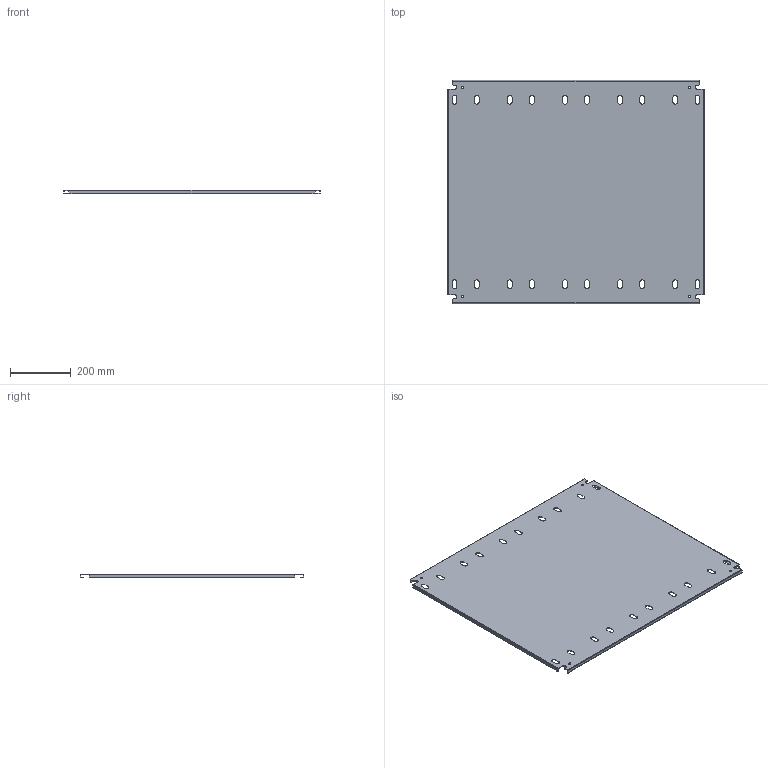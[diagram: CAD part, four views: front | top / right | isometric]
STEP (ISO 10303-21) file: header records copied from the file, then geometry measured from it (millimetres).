
FILE_DESCRIPTION(/* description */ ('1412BTSSCU 33.293" x 29" Left Inner Panel'),/* implementation_level */ '2;1');
FILE_NAME(/* name */ 'C:\Vault_Workspace\Inventor_Dwg\BoxCad\Result\1412BTSSCU121605\e-mail\3D\1412BTSSCU121605IP1.stp',/* time_stamp */ '2022-09-20T16:05:43-04:00',/* author */ ('BoxCad'),/* organization */ (''),/* preprocessor_version */ 'ST-DEVELOPER v18.1',/* originating_system */ 'Autodesk Inventor 2020',/* authorisation */ '');
FILE_SCHEMA (('AUTOMOTIVE_DESIGN { 1 0 10303 214 3 1 1 }'));
Length unit declared in the file: inch
Products named in the file (2): 1412BTSSCU121605IP1; 1412BTSSCU121605IP1-P
Assembly tree (1 placements, depth 2):
  1412BTSSCU121605IP1
    1412BTSSCU121605IP1-P
Bounding box: 845.64 x 736.6 x 13 mm (x, y, z)
Volume: 1153253.6 mm3; surface area: 1344067.6 mm2
Topology: 1 solids, 1 shells, 190 faces, 564 edges, 376 vertices
Faces by surface type: plane 106, cylinder 84
Full cylindrical faces by diameter (mm): 7.366 x4
Entity records: 6561 total; most frequent: CARTESIAN_POINT 1133, ORIENTED_EDGE 1128, DIRECTION 1118, EDGE_CURVE 564, LINE 396, VECTOR 396, VERTEX_POINT 376, AXIS2_PLACEMENT_3D 361
